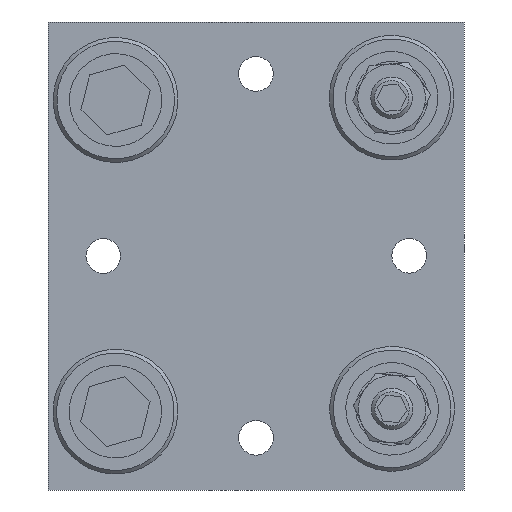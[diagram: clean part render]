
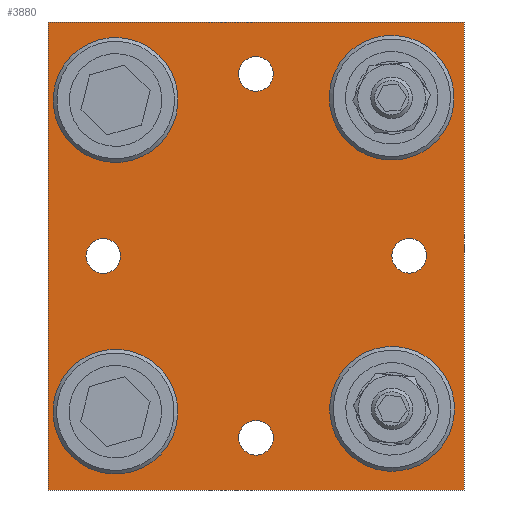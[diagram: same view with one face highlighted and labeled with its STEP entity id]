
A CAD part, front view. The second image highlights one B-rep face of the part: STEP entity #3880.
In plain terms, the highlighted planar face has unit normal (0, -1, 0).
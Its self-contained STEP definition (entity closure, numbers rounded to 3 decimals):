
#241=LINE('',#5266,#333);
#245=LINE('',#5274,#337);
#248=LINE('',#5280,#340);
#250=LINE('',#5283,#342);
#333=VECTOR('',#4473,1000.);
#337=VECTOR('',#4479,1000.);
#340=VECTOR('',#4484,1000.);
#342=VECTOR('',#4488,1000.);
#427=PLANE('',#4094);
#514=ORIENTED_EDGE('',*,*,#1290,.T.);
#515=ORIENTED_EDGE('',*,*,#1291,.T.);
#516=ORIENTED_EDGE('',*,*,#1292,.T.);
#517=ORIENTED_EDGE('',*,*,#1293,.T.);
#518=ORIENTED_EDGE('',*,*,#1294,.T.);
#519=ORIENTED_EDGE('',*,*,#1295,.T.);
#520=ORIENTED_EDGE('',*,*,#1296,.T.);
#521=ORIENTED_EDGE('',*,*,#1297,.T.);
#522=ORIENTED_EDGE('',*,*,#1280,.T.);
#523=ORIENTED_EDGE('',*,*,#1284,.T.);
#524=ORIENTED_EDGE('',*,*,#1287,.T.);
#525=ORIENTED_EDGE('',*,*,#1289,.T.);
#1280=EDGE_CURVE('',#1671,#1670,#241,.T.);
#1284=EDGE_CURVE('',#1670,#1673,#245,.T.);
#1287=EDGE_CURVE('',#1673,#1675,#248,.T.);
#1289=EDGE_CURVE('',#1675,#1671,#250,.T.);
#1290=EDGE_CURVE('',#1676,#1676,#1953,.T.);
#1291=EDGE_CURVE('',#1677,#1677,#1954,.T.);
#1292=EDGE_CURVE('',#1678,#1678,#1955,.T.);
#1293=EDGE_CURVE('',#1679,#1679,#1956,.T.);
#1294=EDGE_CURVE('',#1680,#1680,#1957,.T.);
#1295=EDGE_CURVE('',#1681,#1681,#1958,.T.);
#1296=EDGE_CURVE('',#1682,#1682,#1959,.T.);
#1297=EDGE_CURVE('',#1683,#1683,#1960,.T.);
#1670=VERTEX_POINT('',#5265);
#1671=VERTEX_POINT('',#5267);
#1673=VERTEX_POINT('',#5273);
#1675=VERTEX_POINT('',#5279);
#1676=VERTEX_POINT('',#5286);
#1677=VERTEX_POINT('',#5288);
#1678=VERTEX_POINT('',#5290);
#1679=VERTEX_POINT('',#5292);
#1680=VERTEX_POINT('',#5294);
#1681=VERTEX_POINT('',#5296);
#1682=VERTEX_POINT('',#5298);
#1683=VERTEX_POINT('',#5300);
#1953=CIRCLE('',#4095,3.324);
#1954=CIRCLE('',#4096,3.324);
#1955=CIRCLE('',#4097,3.324);
#1956=CIRCLE('',#4098,3.324);
#1957=CIRCLE('',#4099,3.324);
#1958=CIRCLE('',#4100,3.324);
#1959=CIRCLE('',#4101,3.324);
#1960=CIRCLE('',#4102,3.324);
#2126=EDGE_LOOP('',(#514));
#2127=EDGE_LOOP('',(#515));
#2128=EDGE_LOOP('',(#516));
#2129=EDGE_LOOP('',(#517));
#2130=EDGE_LOOP('',(#518));
#2131=EDGE_LOOP('',(#519));
#2132=EDGE_LOOP('',(#520));
#2133=EDGE_LOOP('',(#521));
#2134=EDGE_LOOP('',(#522,#523,#524,#525));
#2413=FACE_BOUND('',#2126,.T.);
#2414=FACE_BOUND('',#2127,.T.);
#2415=FACE_BOUND('',#2128,.T.);
#2416=FACE_BOUND('',#2129,.T.);
#2417=FACE_BOUND('',#2130,.T.);
#2418=FACE_BOUND('',#2131,.T.);
#2419=FACE_BOUND('',#2132,.T.);
#2420=FACE_BOUND('',#2133,.T.);
#2421=FACE_BOUND('',#2134,.T.);
#3880=ADVANCED_FACE('',(#2413,#2414,#2415,#2416,#2417,#2418,#2419,#2420,
#2421),#427,.T.);
#4094=AXIS2_PLACEMENT_3D('',#5284,#4489,#4490);
#4095=AXIS2_PLACEMENT_3D('',#5285,#4491,#4492);
#4096=AXIS2_PLACEMENT_3D('',#5287,#4493,#4494);
#4097=AXIS2_PLACEMENT_3D('',#5289,#4495,#4496);
#4098=AXIS2_PLACEMENT_3D('',#5291,#4497,#4498);
#4099=AXIS2_PLACEMENT_3D('',#5293,#4499,#4500);
#4100=AXIS2_PLACEMENT_3D('',#5295,#4501,#4502);
#4101=AXIS2_PLACEMENT_3D('',#5297,#4503,#4504);
#4102=AXIS2_PLACEMENT_3D('',#5299,#4505,#4506);
#4473=DIRECTION('',(1.,0.,0.));
#4479=DIRECTION('',(0.,0.,1.));
#4484=DIRECTION('',(-1.,0.,0.));
#4488=DIRECTION('',(0.,0.,-1.));
#4489=DIRECTION('',(0.,-1.,0.));
#4490=DIRECTION('',(0.,0.,-1.));
#4491=DIRECTION('',(0.,1.,0.));
#4492=DIRECTION('',(0.,0.,-1.));
#4493=DIRECTION('',(0.,1.,0.));
#4494=DIRECTION('',(0.,0.,-1.));
#4495=DIRECTION('',(0.,1.,0.));
#4496=DIRECTION('',(0.,0.,-1.));
#4497=DIRECTION('',(0.,1.,0.));
#4498=DIRECTION('',(0.,0.,-1.));
#4499=DIRECTION('',(0.,1.,0.));
#4500=DIRECTION('',(0.,0.,-1.));
#4501=DIRECTION('',(0.,1.,0.));
#4502=DIRECTION('',(0.,0.,-1.));
#4503=DIRECTION('',(0.,1.,0.));
#4504=DIRECTION('',(0.,0.,-1.));
#4505=DIRECTION('',(0.,1.,0.));
#4506=DIRECTION('',(0.,0.,-1.));
#5265=CARTESIAN_POINT('',(40.,-14.,-45.));
#5266=CARTESIAN_POINT('',(-40.,-14.,-45.));
#5267=CARTESIAN_POINT('',(-40.,-14.,-45.));
#5273=CARTESIAN_POINT('',(40.,-14.,45.));
#5274=CARTESIAN_POINT('',(40.,-14.,-45.));
#5279=CARTESIAN_POINT('',(-40.,-14.,45.));
#5280=CARTESIAN_POINT('',(40.,-14.,45.));
#5283=CARTESIAN_POINT('',(-40.,-14.,45.));
#5284=CARTESIAN_POINT('',(0.,-14.,0.));
#5285=CARTESIAN_POINT('',(0.,-14.,-34.966));
#5286=CARTESIAN_POINT('',(0.,-14.,-38.289));
#5287=CARTESIAN_POINT('',(-29.374,-14.,0.));
#5288=CARTESIAN_POINT('',(-29.374,-14.,-3.324));
#5289=CARTESIAN_POINT('',(29.451,-14.,0.034));
#5290=CARTESIAN_POINT('',(29.451,-14.,-3.29));
#5291=CARTESIAN_POINT('',(-0.015,-14.,35.005));
#5292=CARTESIAN_POINT('',(-0.015,-14.,31.682));
#5293=CARTESIAN_POINT('',(-27.,-14.,30.));
#5294=CARTESIAN_POINT('',(-27.,-14.,26.677));
#5295=CARTESIAN_POINT('',(-27.043,-14.,-29.938));
#5296=CARTESIAN_POINT('',(-27.043,-14.,-33.261));
#5297=CARTESIAN_POINT('',(26.989,-14.,-29.976));
#5298=CARTESIAN_POINT('',(26.989,-14.,-33.3));
#5299=CARTESIAN_POINT('',(26.988,-14.,30.004));
#5300=CARTESIAN_POINT('',(26.988,-14.,26.681));
